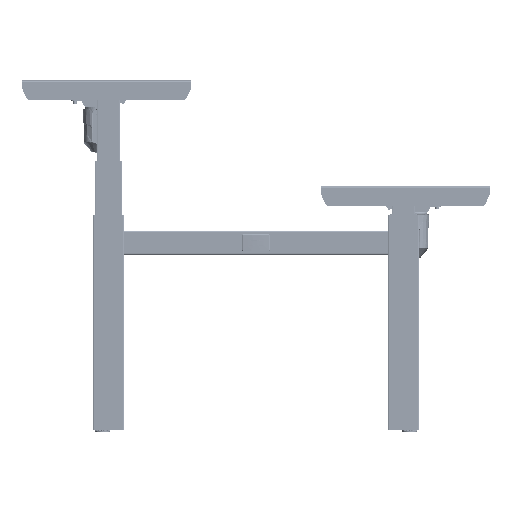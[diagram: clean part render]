
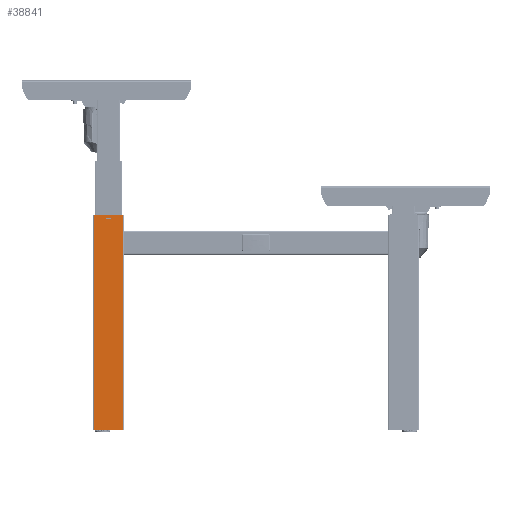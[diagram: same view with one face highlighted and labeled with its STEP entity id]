
A CAD part, left-side view. The second image highlights one B-rep face of the part: STEP entity #38841.
In plain terms, the highlighted planar face has unit normal (-1, 0, 0).
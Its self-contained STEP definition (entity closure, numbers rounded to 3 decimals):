
#239 = LINE ( 'NONE', #41798, #51714 ) ;
#1746 = CARTESIAN_POINT ( 'NONE',  ( -30., -6., 10. ) ) ;
#4820 = DIRECTION ( 'NONE',  ( 1., 0., 0. ) ) ;
#7203 = EDGE_CURVE ( 'NONE', #27239, #60973, #104284, .T. ) ;
#8181 = VERTEX_POINT ( 'NONE', #14694 ) ;
#8648 = VERTEX_POINT ( 'NONE', #76192 ) ;
#10445 = VERTEX_POINT ( 'NONE', #42870 ) ;
#11133 = VECTOR ( 'NONE', #85169, 1000. ) ;
#13589 = VECTOR ( 'NONE', #67935, 1000. ) ;
#14694 = CARTESIAN_POINT ( 'NONE',  ( -30., -37., 0. ) ) ;
#15063 = ORIENTED_EDGE ( 'NONE', *, *, #83588, .T. ) ;
#16608 = VERTEX_POINT ( 'NONE', #71197 ) ;
#19622 = ORIENTED_EDGE ( 'NONE', *, *, #101235, .F. ) ;
#20571 = CARTESIAN_POINT ( 'NONE',  ( -30., 37., 545. ) ) ;
#21055 = ORIENTED_EDGE ( 'NONE', *, *, #53488, .T. ) ;
#23155 = LINE ( 'NONE', #58528, #67199 ) ;
#27239 = VERTEX_POINT ( 'NONE', #1746 ) ;
#38841 = ADVANCED_FACE ( 'NONE', ( #98294, #55533 ), #60765, .F. ) ;
#38967 = VECTOR ( 'NONE', #59391, 1000. ) ;
#39082 = ORIENTED_EDGE ( 'NONE', *, *, #96466, .F. ) ;
#41798 = CARTESIAN_POINT ( 'NONE',  ( -30., -37., 545. ) ) ;
#42870 = CARTESIAN_POINT ( 'NONE',  ( -30., 6., 6. ) ) ;
#43824 = VERTEX_POINT ( 'NONE', #65643 ) ;
#44760 = EDGE_CURVE ( 'NONE', #43824, #27239, #69171, .T. ) ;
#45915 = DIRECTION ( 'NONE',  ( 0., 0., 1. ) ) ;
#46327 = CARTESIAN_POINT ( 'NONE',  ( -30., 37., 0. ) ) ;
#46775 = LINE ( 'NONE', #50161, #51703 ) ;
#48168 = ORIENTED_EDGE ( 'NONE', *, *, #54717, .T. ) ;
#50161 = CARTESIAN_POINT ( 'NONE',  ( -30., 37., 545. ) ) ;
#50978 = LINE ( 'NONE', #46327, #91279 ) ;
#51703 = VECTOR ( 'NONE', #82894, 1000. ) ;
#51714 = VECTOR ( 'NONE', #74548, 1000. ) ;
#53115 = CARTESIAN_POINT ( 'NONE',  ( -30., -6., 10. ) ) ;
#53488 = EDGE_CURVE ( 'NONE', #60973, #10445, #62824, .T. ) ;
#54717 = EDGE_CURVE ( 'NONE', #10445, #43824, #96019, .T. ) ;
#55533 = FACE_OUTER_BOUND ( 'NONE', #75633, .T. ) ;
#58528 = CARTESIAN_POINT ( 'NONE',  ( -30., 37., 545. ) ) ;
#59391 = DIRECTION ( 'NONE',  ( 0., -1., 0. ) ) ;
#60667 = AXIS2_PLACEMENT_3D ( 'NONE', #20571, #4820, #86764 ) ;
#60765 = PLANE ( 'NONE',  #60667 ) ;
#60973 = VERTEX_POINT ( 'NONE', #97670 ) ;
#62824 = LINE ( 'NONE', #93941, #11133 ) ;
#65643 = CARTESIAN_POINT ( 'NONE',  ( -30., 6., 10. ) ) ;
#66624 = DIRECTION ( 'NONE',  ( 0., 0., -1. ) ) ;
#67199 = VECTOR ( 'NONE', #66624, 1000. ) ;
#67935 = DIRECTION ( 'NONE',  ( 0., 0., -1. ) ) ;
#69171 = LINE ( 'NONE', #99475, #38967 ) ;
#69867 = CARTESIAN_POINT ( 'NONE',  ( -30., 6., 10. ) ) ;
#69874 = VERTEX_POINT ( 'NONE', #74603 ) ;
#71197 = CARTESIAN_POINT ( 'NONE',  ( -30., 37., 0. ) ) ;
#74548 = DIRECTION ( 'NONE',  ( 0., 0., -1. ) ) ;
#74603 = CARTESIAN_POINT ( 'NONE',  ( -30., -37., 545. ) ) ;
#75633 = EDGE_LOOP ( 'NONE', ( #15063, #39082, #19622, #104092 ) ) ;
#76192 = CARTESIAN_POINT ( 'NONE',  ( -30., 37., 545. ) ) ;
#78039 = ORIENTED_EDGE ( 'NONE', *, *, #7203, .T. ) ;
#82894 = DIRECTION ( 'NONE',  ( 0., -1., 0. ) ) ;
#83588 = EDGE_CURVE ( 'NONE', #16608, #8181, #50978, .T. ) ;
#85169 = DIRECTION ( 'NONE',  ( 0., 1., 0. ) ) ;
#86764 = DIRECTION ( 'NONE',  ( 0., 1., 0. ) ) ;
#91279 = VECTOR ( 'NONE', #102631, 1000. ) ;
#93861 = EDGE_CURVE ( 'NONE', #8648, #16608, #23155, .T. ) ;
#93941 = CARTESIAN_POINT ( 'NONE',  ( -30., 6., 6. ) ) ;
#96019 = LINE ( 'NONE', #69867, #98502 ) ;
#96466 = EDGE_CURVE ( 'NONE', #69874, #8181, #239, .T. ) ;
#97670 = CARTESIAN_POINT ( 'NONE',  ( -30., -6., 6. ) ) ;
#98020 = ORIENTED_EDGE ( 'NONE', *, *, #44760, .T. ) ;
#98119 = EDGE_LOOP ( 'NONE', ( #48168, #98020, #78039, #21055 ) ) ;
#98294 = FACE_BOUND ( 'NONE', #98119, .T. ) ;
#98502 = VECTOR ( 'NONE', #45915, 1000. ) ;
#99475 = CARTESIAN_POINT ( 'NONE',  ( -30., 6., 10. ) ) ;
#101235 = EDGE_CURVE ( 'NONE', #8648, #69874, #46775, .T. ) ;
#102631 = DIRECTION ( 'NONE',  ( 0., -1., 0. ) ) ;
#104092 = ORIENTED_EDGE ( 'NONE', *, *, #93861, .T. ) ;
#104284 = LINE ( 'NONE', #53115, #13589 ) ;
